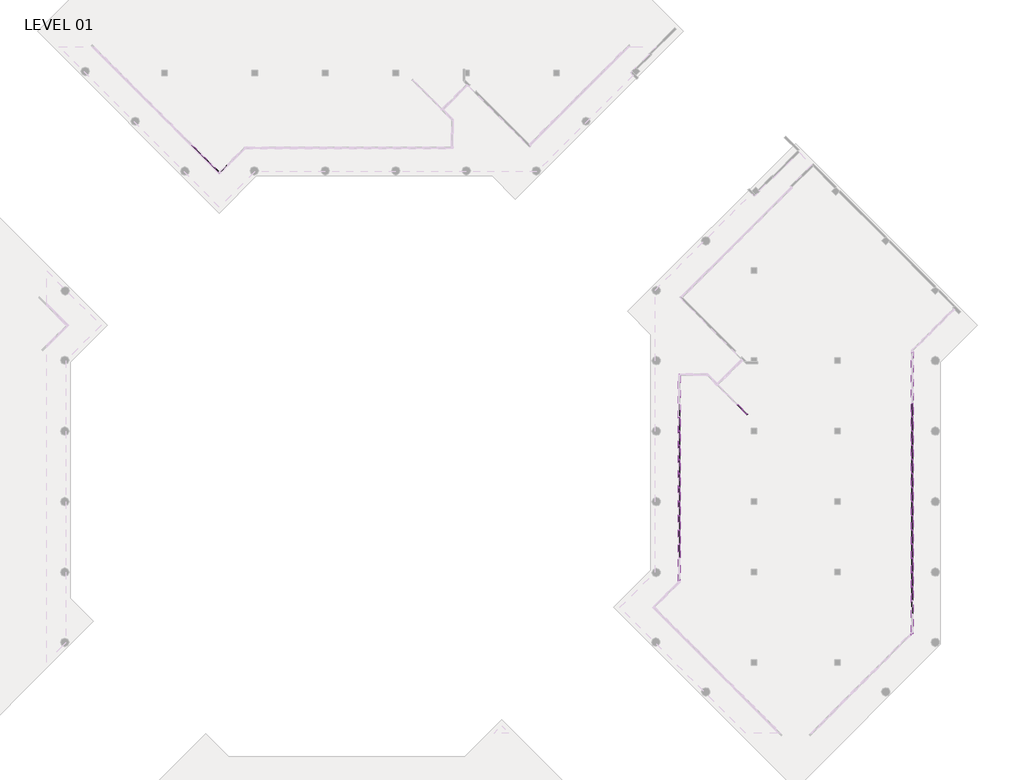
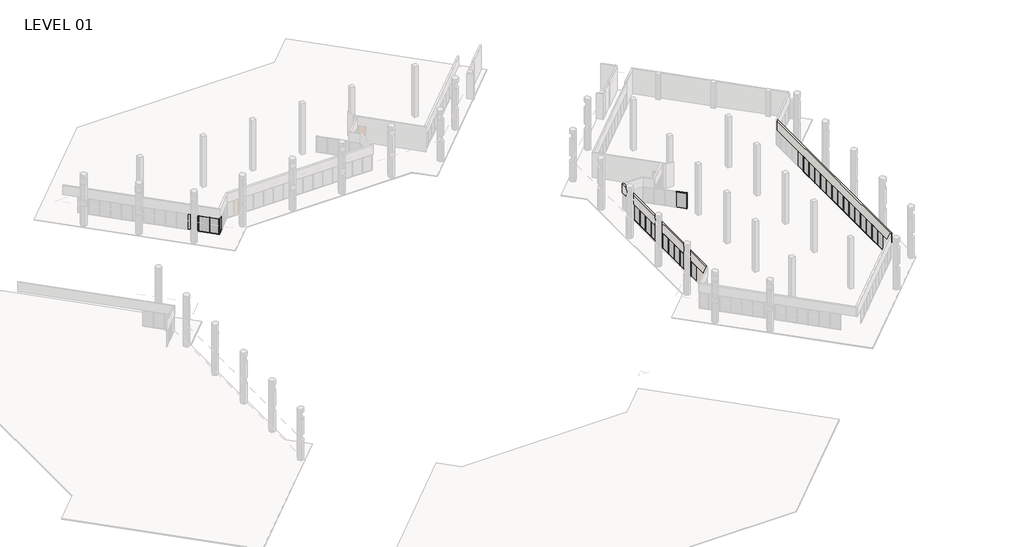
# One storey, part 10 of 24: 84 members, 31 plates, 2 walls.
"""IFC4 building model written with IfcOpenShell, lengths in millimetres."""

import ifcopenshell
import ifcopenshell.guid

model = None  # the IFC model being written
_history = None  # IfcOwnerHistory: only IFC2X3 demands one
_inside = {}  # id of a spatial element -> (the spatial element, [elements in it])
_under = {}  # id of a project, library or spatial element -> (it, [spatial elements below it])
_declared = {}  # id of a project -> (the project, [libraries it declares])
_typed = {}  # id of a type object -> (the type object, [elements of that type])
_made_of = {}  # id of a material, layer set ... -> (it, [elements and type objects made of it])


def new_model(schema):
    """Start an empty IFC model of exactly this schema.

    Asked for "IFC4X3", IfcOpenShell would pick the latest addendum, in which some entities
    have other attributes; the version numbers below select the first issue.
    IFC2X3 requires an IfcOwnerHistory on every rooted entity: one is made here for all.
    """
    global model, _history
    if schema == "IFC4X3":
        model = ifcopenshell.file(schema_version=(4, 3, 0, 0))
    else:
        model = ifcopenshell.file(schema=schema)
    _inside.clear()
    _under.clear()
    _declared.clear()
    _typed.clear()
    _made_of.clear()
    _history = None
    if model.schema == "IFC2X3":
        org = make("IfcOrganization", Name="unknown")
        user = make(
            "IfcPersonAndOrganization",
            ThePerson=make("IfcPerson", FamilyName="unknown"),
            TheOrganization=org,
        )
        app = make(
            "IfcApplication",
            ApplicationDeveloper=org,
            Version="unknown",
            ApplicationFullName="unknown",
            ApplicationIdentifier="unknown",
        )
        _history = make(
            "IfcOwnerHistory",
            OwningUser=user,
            OwningApplication=app,
            ChangeAction="ADDED",
            CreationDate=0,
        )
    return model


def make(cls, **values):
    """One entity of the class cls with the attributes given. An attribute that is None is left unset."""
    return model.create_entity(
        cls, **{name: value for name, value in values.items() if value is not None}
    )


def rooted(cls, **values):
    """An entity with a GlobalId (a new one), such as an element, a storey or a relation."""
    return make(cls, GlobalId=ifcopenshell.guid.new(), OwnerHistory=_history, **values)


def si_unit(unit_type, name, prefix=None):
    """IfcSIUnit, for example si_unit("LENGTHUNIT", "METRE", prefix="MILLI")."""
    return make("IfcSIUnit", UnitType=unit_type, Prefix=prefix, Name=name)


def assignment(units):
    """IfcUnitAssignment: the units of a project."""
    return None if units is None else make("IfcUnitAssignment", Units=units)


def point(xyz):
    """IfcCartesianPoint."""
    return None if xyz is None else make("IfcCartesianPoint", Coordinates=xyz)


def direction(xyz):
    """IfcDirection."""
    return None if xyz is None else make("IfcDirection", DirectionRatios=xyz)


def frame(location, z_axis=None, x_axis=None):
    """IfcAxis2Placement3D, a coordinate frame: its origin and axes. An axis left out is left unset."""
    return make(
        "IfcAxis2Placement3D",
        Location=point(location),
        Axis=direction(z_axis),
        RefDirection=direction(x_axis),
    )


def origin():
    """The frame at (0, 0, 0) with its axes left unset."""
    return frame((0.0, 0.0, 0.0))


def origin_with_axes():
    """The frame at (0, 0, 0) with the z axis (0, 0, 1) and the x axis (1, 0, 0) written out."""
    return frame((0.0, 0.0, 0.0), z_axis=(0.0, 0.0, 1.0), x_axis=(1.0, 0.0, 0.0))


def place(relative_to, where):
    """IfcLocalPlacement: puts the frame where relative to a parent placement (None: the world)."""
    return make(
        "IfcLocalPlacement", PlacementRelTo=relative_to, RelativePlacement=where
    )


def context(
    kind, dimensions, precision=None, world=None, true_north=None, identifier=None
):
    """IfcGeometricRepresentationContext, for example the 3D "Model" context."""
    return make(
        "IfcGeometricRepresentationContext",
        ContextIdentifier=identifier,
        ContextType=kind,
        CoordinateSpaceDimension=dimensions,
        Precision=precision,
        WorldCoordinateSystem=world,
        TrueNorth=true_north,
    )


def project(units=None, contexts=None):
    """IfcProject with its units and contexts."""
    return rooted(
        "IfcProject",
        Name="project",
        RepresentationContexts=contexts,
        UnitsInContext=assignment(units),
    )


def spatial(cls, under=None, at=None, **own):
    """A site, building, storey or space (cls), placed at a placement, below another one or the project."""
    s = rooted(cls, ObjectPlacement=at, **own)
    if under is not None:
        _under.setdefault(under.id(), (under, []))[1].append(s)
    return s


def polyline(points):
    """IfcPolyline through the points."""
    return make("IfcPolyline", Points=[point(p) for p in points])


def outline(outer, holes=None, kind="AREA"):
    """IfcArbitraryClosedProfileDef: a profile drawn as a closed curve; with holes, ...WithVoids."""
    if holes is None:
        return make("IfcArbitraryClosedProfileDef", ProfileType=kind, OuterCurve=outer)
    return make(
        "IfcArbitraryProfileDefWithVoids",
        ProfileType=kind,
        OuterCurve=outer,
        InnerCurves=holes,
    )


def extrude(swept, where, along, depth):
    """IfcExtrudedAreaSolid: the profile swept, set in the frame where, extruded along a direction by depth."""
    return make(
        "IfcExtrudedAreaSolid",
        SweptArea=swept,
        Position=where,
        ExtrudedDirection=direction(along),
        Depth=depth,
    )


def faces_of(points, faces, orient=None, outer=None):
    """IfcFace entities. A face is a list of loops; a loop is a list of indices into points, from 0.

    orient and outer hold one flag for each loop. By default every Orientation is true, the
    first loop of a face is its IfcFaceOuterBound and the others are IfcFaceBound.
    """
    made = []
    for i, loops in enumerate(faces):
        bounds = []
        for j, loop in enumerate(loops):
            is_outer = j == 0 if outer is None else outer[i][j]
            bounds.append(
                make(
                    "IfcFaceOuterBound" if is_outer else "IfcFaceBound",
                    Bound=make("IfcPolyLoop", Polygon=[points[k] for k in loop]),
                    Orientation=True if orient is None else orient[i][j],
                )
            )
        made.append(make("IfcFace", Bounds=bounds))
    return made


def faceted_brep(points, faces, orient=None, outer=None, voids=None):
    """IfcFacetedBrep: a solid bounded by flat faces; with voids (closed shells), ...WithVoids."""
    shared = [point(p) for p in points]
    hull = make("IfcClosedShell", CfsFaces=faces_of(shared, faces, orient, outer))
    if voids is None:
        return make("IfcFacetedBrep", Outer=hull)
    return make(
        "IfcFacetedBrepWithVoids",
        Outer=hull,
        Voids=[
            make(cls, CfsFaces=faces_of(shared, fs, o, b)) for cls, fs, o, b in voids
        ],
    )


def shape(context_of_items, identifier, shape_type, items):
    """IfcShapeRepresentation: the items that make up one representation, for example the "Body"."""
    return make(
        "IfcShapeRepresentation",
        ContextOfItems=context_of_items,
        RepresentationIdentifier=identifier,
        RepresentationType=shape_type,
        Items=items,
    )


def source(mapping_origin, context_of_items, identifier, shape_type, items):
    """IfcRepresentationMap: a shape defined once, which mapped items show again and again."""
    return make(
        "IfcRepresentationMap",
        MappingOrigin=mapping_origin,
        MappedRepresentation=shape(context_of_items, identifier, shape_type, items),
    )


def transform(
    local_origin,
    x_axis=None,
    y_axis=None,
    z_axis=None,
    scale=None,
    scale2=None,
    scale3=None,
    uniform=True,
):
    """IfcCartesianTransformationOperator3D, or its non-uniform kind. x_axis, y_axis, z_axis: its Axis1, 2, 3."""
    if uniform:
        return make(
            "IfcCartesianTransformationOperator3D",
            Axis1=direction(x_axis),
            Axis2=direction(y_axis),
            LocalOrigin=point(local_origin),
            Scale=scale,
            Axis3=direction(z_axis),
        )
    return make(
        "IfcCartesianTransformationOperator3DnonUniform",
        Axis1=direction(x_axis),
        Axis2=direction(y_axis),
        LocalOrigin=point(local_origin),
        Scale=scale,
        Axis3=direction(z_axis),
        Scale2=scale2,
        Scale3=scale3,
    )


def mapped(mapping_source, mapping_target):
    """IfcMappedItem: shows the shape of a source again, moved by a transform."""
    return make(
        "IfcMappedItem", MappingSource=mapping_source, MappingTarget=mapping_target
    )


def made_of(thing, what):
    """Note that an element or type object is made of a material, layer set ...; save() writes the relation."""
    if what is not None:
        _made_of.setdefault(what.id(), (what, []))[1].append(thing)
    return thing


def element(
    cls,
    number,
    at=None,
    inside=None,
    cuts=None,
    type_object=None,
    material=None,
    context=None,
    identifier="Body",
    shape_type=None,
    held_by="IfcProductDefinitionShape",
    body=None,
    shapes=None,
    **own,
):
    """One element of the class cls, such as IfcWall. Its Tag is "e" and its number.

    at: its placement. inside: the storey or other place that contains it. cuts: it is an
    opening in that element (IfcRelVoidsElement). A single representation is given by context,
    identifier, shape_type and body (its items); several are given by shapes. held_by: the class
    of the entity that holds the representations. save() writes the other relations.
    """
    e = rooted(cls, Tag="e%d" % number, ObjectPlacement=at, **own)
    if body is not None:
        shapes = [shape(context, identifier, shape_type, body)]
    if shapes is not None:
        e.Representation = make(held_by, Representations=shapes)
    if inside is not None:
        _inside.setdefault(inside.id(), (inside, []))[1].append(e)
    if cuts is not None:
        rooted(
            "IfcRelVoidsElement", RelatingBuildingElement=cuts, RelatedOpeningElement=e
        )
    if type_object is not None:
        _typed.setdefault(type_object.id(), (type_object, []))[1].append(e)
    return made_of(e, material)


def aggregate(whole, parts):
    """IfcRelAggregates: a whole, such as a stair, and the parts it consists of."""
    return rooted("IfcRelAggregates", RelatingObject=whole, RelatedObjects=parts)


def save(model, path):
    """Write the relations noted so far, then the file.

    IfcRelAggregates (storeys below a building ...), IfcRelContainedInSpatialStructure (elements
    in a storey), IfcRelDefinesByType, IfcRelAssociatesMaterial and IfcRelDeclares: one each for
    every whole, place, type object, material and project.
    """
    for whole, parts in _under.values():
        aggregate(whole, parts)
    for where, things in _inside.values():
        rooted(
            "IfcRelContainedInSpatialStructure",
            RelatedElements=things,
            RelatingStructure=where,
        )
    for kind, things in _typed.values():
        rooted("IfcRelDefinesByType", RelatedObjects=things, RelatingType=kind)
    for what, things in _made_of.values():
        rooted("IfcRelAssociatesMaterial", RelatedObjects=things, RelatingMaterial=what)
    for by, libraries in _declared.values():
        rooted("IfcRelDeclares", RelatingContext=by, RelatedDefinitions=libraries)
    model.write(path)


def member_5247f267(model_context):
    return source(origin(), model_context, "Body", "SweptSolid", [
        extrude(outline(polyline([(0.0, 57.15), (0.0, -57.15), (-50.8, -57.15), (-50.8, 57.15), (0.0, 57.15)])), frame((0.0, 0.0, -1473.2), z_axis=(0.0, 0.0, 1.0), x_axis=(1.0, 0.0, 0.0)), (0.0, 0.0, 1.0), 1473.2),
    ])


def member_1b18ecbc(model_context):
    return source(origin(), model_context, "Body", "SweptSolid", [
        extrude(outline(polyline([(0.0, 57.15), (0.0, -57.15), (-50.8, -57.15), (-50.8, 57.15), (0.0, 57.15)])), frame((0.0, 0.0, -1197.1536726), z_axis=(0.0, 0.0, 1.0), x_axis=(1.0, 0.0, 0.0)), (0.0, 0.0, 1.0), 1197.1536726),
    ])


def member_e44af9ab(model_context):
    return source(origin(), model_context, "Body", "SweptSolid", [
        extrude(outline(polyline([(25.4, 57.15), (25.4, -57.15), (-25.4, -57.15), (-25.4, 57.15), (25.4, 57.15)])), frame((0.0, 0.0, -2590.8), z_axis=(0.0, 0.0, 1.0), x_axis=(1.0, 0.0, 0.0)), (0.0, 0.0, 1.0), 2590.8),
    ])


def member_800970d4(model_context):
    return source(origin(), model_context, "Body", "SweptSolid", [
        extrude(outline(polyline([(0.0, 57.15), (0.0, -57.15), (-50.8, -57.15), (-50.8, 57.15), (0.0, 57.15)])), frame((0.0, 0.0, -2590.8), z_axis=(0.0, 0.0, 1.0), x_axis=(1.0, 0.0, 0.0)), (0.0, 0.0, 1.0), 2590.8),
    ])


def member_cca1f9e6(model_context):
    return source(origin(), model_context, "Body", "SweptSolid", [
        extrude(outline(polyline([(0.0, 57.15), (0.0, -57.15), (-50.8, -57.15), (-50.8, 57.15), (0.0, 57.15)])), frame((0.0, 0.0, -1447.8), z_axis=(0.0, 0.0, 1.0), x_axis=(1.0, 0.0, 0.0)), (0.0, 0.0, 1.0), 1447.8),
    ])


def plate_67294edd(model_context):
    return source(origin(), model_context, "Body", "SweptSolid", [
        extrude(outline(polyline([(736.6, -3.175), (-736.6, -3.175), (-736.6, 3.175), (736.6, 3.175), (736.6, -3.175)])), origin_with_axes(), (0.0, 0.0, 1.0), 2489.2),
    ])


def plate_474de82a(model_context):
    return source(origin(), model_context, "Body", "SweptSolid", [
        extrude(outline(polyline([(598.5768363, -3.175), (-598.5768363, -3.175), (-598.5768363, 3.175), (598.5768363, 3.175), (598.5768363, -3.175)])), origin_with_axes(), (0.0, 0.0, 1.0), 2489.2),
    ])


def plate_e0bd23ee(model_context):
    return source(origin(), model_context, "Body", "SweptSolid", [
        extrude(outline(polyline([(598.574085, -3.175), (-598.574085, -3.175), (-598.574085, 3.175), (598.574085, 3.175), (598.574085, -3.175)])), origin_with_axes(), (0.0, 0.0, 1.0), 2489.2),
    ])


def plate_5a14c350(model_context):
    return source(origin(), model_context, "Body", "SweptSolid", [
        extrude(outline(polyline([(723.9, -3.175), (-723.9, -3.175), (-723.9, 3.175), (723.9, 3.175), (723.9, -3.175)])), origin_with_axes(), (0.0, 0.0, 1.0), 2489.2),
    ])


model = new_model("IFC4")

# Units and contexts
model_context = context("Model", 3, world=origin())
ifc_project = project(units=[si_unit("LENGTHUNIT", "METRE", prefix="MILLI")], contexts=[model_context])

# Site, building, storey
site = spatial("IfcSite", under=ifc_project)
building = spatial("IfcBuilding", under=site)
storey = spatial("IfcBuildingStorey", under=building, Name="LEVEL 01", Elevation=0.0)

# Members
placement = place(None, origin())
member_shape = member_5247f267(model_context)
element("IfcMember", 1, ObjectType="Rectangular Mullion : 2\" x 4.5\" rectangular", at=placement, inside=storey, context=model_context, shape_type="MappedRepresentation", body=[
    mapped(member_shape, transform((12625.8827609, 91169.8640414, 0.0), x_axis=(0.0, 0.0, -1.0), y_axis=(-0.7071067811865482, -0.7071067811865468, 0.0), z_axis=(-0.7071067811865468, 0.7071067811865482, 0.0))),
])
element("IfcMember", 2, ObjectType="Rectangular Mullion : 2\" x 4.5\" rectangular", at=placement, inside=storey, context=model_context, shape_type="MappedRepresentation", body=[
    mapped(member_shape, transform((12589.9617365, 91205.7850659, 2590.8), x_axis=(0.0, 0.0, 1.0), y_axis=(-0.7071067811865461, -0.707106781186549, 0.0), z_axis=(0.707106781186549, -0.7071067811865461, 0.0))),
])
element("IfcMember", 3, ObjectType="Rectangular Mullion : 2\" x 4.5\" rectangular", at=placement, inside=storey, context=model_context, shape_type="MappedRepresentation", body=[
    mapped(member_shape, transform((13667.592471, 90128.1543313, 2590.8), x_axis=(0.0, 0.0, 1.0), y_axis=(-0.7071067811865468, -0.7071067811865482, 0.0), z_axis=(0.7071067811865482, -0.7071067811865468, 0.0))),
])
member_2_shape = member_1b18ecbc(model_context)
element("IfcMember", 4, ObjectType="Rectangular Mullion : 2\" x 4.5\" rectangular", at=placement, inside=storey, context=model_context, shape_type="MappedRepresentation", body=[
    mapped(member_2_shape, transform((14550.0289755, 89245.7178268, 2590.8), x_axis=(0.0, 0.0, 1.0), y_axis=(-0.7071067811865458, -0.7071067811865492, 0.0), z_axis=(0.7071067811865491, -0.7071067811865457, 0.0))),
])
element("IfcMember", 5, ObjectType="Rectangular Mullion : 2\" x 4.5\" rectangular", at=placement, inside=storey, context=model_context, shape_type="MappedRepresentation", body=[
    mapped(member_2_shape, transform((14621.8710245, 89245.7178268, 0.0), x_axis=(0.0, 0.0, -1.0), y_axis=(0.7071067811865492, -0.7071067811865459, 0.0), z_axis=(-0.7071067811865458, -0.7071067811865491, 0.0))),
])
element("IfcMember", 6, ObjectType="Rectangular Mullion : 2\" x 4.5\" rectangular", at=placement, inside=storey, context=model_context, shape_type="MappedRepresentation", body=[
    mapped(member_2_shape, transform((13703.5134955, 90092.2333069, 0.0), x_axis=(0.0, 0.0, -1.0), y_axis=(-0.707106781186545, -0.7071067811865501, 0.0), z_axis=(-0.7071067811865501, 0.707106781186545, 0.0))),
])
member_3_shape = member_e44af9ab(model_context)
element("IfcMember", 7, ObjectType="Rectangular Mullion : 2\" x 4.5\" rectangular", at=placement, inside=storey, context=model_context, shape_type="MappedRepresentation", body=[
    mapped(member_3_shape, transform((12607.9222487, 91187.8245536, 0.0), x_axis=(0.7071067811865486, -0.7071067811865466, 0.0), y_axis=(-0.7071067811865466, -0.7071067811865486, 0.0), z_axis=(0.0, 0.0, -1.0))),
])
element("IfcMember", 8, ObjectType="Rectangular Mullion : 2\" x 4.5\" rectangular", at=placement, inside=storey, context=model_context, shape_type="MappedRepresentation", body=[
    mapped(member_3_shape, transform((13685.5529832, 90110.1938191, 0.0), x_axis=(0.7071067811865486, -0.7071067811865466, 0.0), y_axis=(-0.7071067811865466, -0.7071067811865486, 0.0), z_axis=(0.0, 0.0, -1.0))),
])
member_4_shape = member_800970d4(model_context)
element("IfcMember", 9, ObjectType="Rectangular Mullion : 2\" x 4.5\" rectangular", at=placement, inside=storey, context=model_context, shape_type="MappedRepresentation", body=[
    mapped(member_4_shape, transform((14585.95, 89209.7968023, 0.0), x_axis=(0.7071067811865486, -0.7071067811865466, 0.0), y_axis=(-0.7071067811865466, -0.7071067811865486, 0.0), z_axis=(0.0, 0.0, -1.0))),
])
element("IfcMember", 10, ObjectType="Rectangular Mullion : 2\" x 4.5\" rectangular", at=placement, inside=storey, context=model_context, shape_type="MappedRepresentation", body=[
    mapped(member_4_shape, transform((14585.95, 89209.7968023, 2590.8), x_axis=(-0.7071067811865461, -0.7071067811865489, 0.0), y_axis=(0.7071067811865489, -0.7071067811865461, 0.0), z_axis=(0.0, 0.0, 1.0))),
])
element("IfcMember", 11, ObjectType="Rectangular Mullion : 2\" x 4.5\" rectangular", at=placement, inside=storey, context=model_context, shape_type="MappedRepresentation", body=[
    mapped(member_shape, transform((89445.0847164, 62877.3675885, 2590.8), x_axis=(0.0, 0.0, 1.0), y_axis=(-1.0, 0.0, 0.0), z_axis=(0.0, -1.0, 0.0))),
])
element("IfcMember", 12, ObjectType="Rectangular Mullion : 2\" x 4.5\" rectangular", at=placement, inside=storey, context=model_context, shape_type="MappedRepresentation", body=[
    mapped(member_shape, transform((89445.0847164, 61353.3675885, 2590.8), x_axis=(0.0, 0.0, 1.0), y_axis=(-1.0, 0.0, 0.0), z_axis=(0.0, -1.0, 0.0))),
])
element("IfcMember", 13, ObjectType="Rectangular Mullion : 2\" x 4.5\" rectangular", at=placement, inside=storey, context=model_context, shape_type="MappedRepresentation", body=[
    mapped(member_shape, transform((89445.0847164, 56781.3675885, 2590.8), x_axis=(0.0, 0.0, 1.0), y_axis=(-1.0, 0.0, 0.0), z_axis=(0.0, -1.0, 0.0))),
])
element("IfcMember", 14, ObjectType="Rectangular Mullion : 2\" x 4.5\" rectangular", at=placement, inside=storey, context=model_context, shape_type="MappedRepresentation", body=[
    mapped(member_shape, transform((89445.0847164, 55257.3675885, 2590.8), x_axis=(0.0, 0.0, 1.0), y_axis=(-1.0, 0.0, 0.0), z_axis=(0.0, -1.0, 0.0))),
])
element("IfcMember", 15, ObjectType="Rectangular Mullion : 2\" x 4.5\" rectangular", at=placement, inside=storey, context=model_context, shape_type="MappedRepresentation", body=[
    mapped(member_shape, transform((89445.0847164, 52209.3675885, 2590.8), x_axis=(0.0, 0.0, 1.0), y_axis=(-1.0, 0.0, 0.0), z_axis=(0.0, -1.0, 0.0))),
])
element("IfcMember", 16, ObjectType="Rectangular Mullion : 2\" x 4.5\" rectangular", at=placement, inside=storey, context=model_context, shape_type="MappedRepresentation", body=[
    mapped(member_shape, transform((89445.0847164, 49161.3675885, 2590.8), x_axis=(0.0, 0.0, 1.0), y_axis=(-1.0, 0.0, 0.0), z_axis=(0.0, -1.0, 0.0))),
])
element("IfcMember", 17, ObjectType="Rectangular Mullion : 2\" x 4.5\" rectangular", at=placement, inside=storey, context=model_context, shape_type="MappedRepresentation", body=[
    mapped(member_shape, transform((89445.0847164, 46113.3675885, 2590.8), x_axis=(0.0, 0.0, 1.0), y_axis=(-1.0, 0.0, 0.0), z_axis=(0.0, -1.0, 0.0))),
])
element("IfcMember", 18, ObjectType="Rectangular Mullion : 2\" x 4.5\" rectangular", at=placement, inside=storey, context=model_context, shape_type="MappedRepresentation", body=[
    mapped(member_shape, transform((89445.0847164, 59829.3675885, 2590.8), x_axis=(0.0, 0.0, 1.0), y_axis=(-1.0, 0.0, 0.0), z_axis=(0.0, -1.0, 0.0))),
])
element("IfcMember", 19, ObjectType="Rectangular Mullion : 2\" x 4.5\" rectangular", at=placement, inside=storey, context=model_context, shape_type="MappedRepresentation", body=[
    mapped(member_shape, transform((89445.0847164, 58305.3675885, 2590.8), x_axis=(0.0, 0.0, 1.0), y_axis=(-1.0, 0.0, 0.0), z_axis=(0.0, -1.0, 0.0))),
])
element("IfcMember", 20, ObjectType="Rectangular Mullion : 2\" x 4.5\" rectangular", at=placement, inside=storey, context=model_context, shape_type="MappedRepresentation", body=[
    mapped(member_shape, transform((89445.0847164, 53733.3675885, 2590.8), x_axis=(0.0, 0.0, 1.0), y_axis=(-1.0, 0.0, 0.0), z_axis=(0.0, -1.0, 0.0))),
])
element("IfcMember", 21, ObjectType="Rectangular Mullion : 2\" x 4.5\" rectangular", at=placement, inside=storey, context=model_context, shape_type="MappedRepresentation", body=[
    mapped(member_shape, transform((89445.0847164, 50685.3675885, 2590.8), x_axis=(0.0, 0.0, 1.0), y_axis=(-1.0, 0.0, 0.0), z_axis=(0.0, -1.0, 0.0))),
])
element("IfcMember", 22, ObjectType="Rectangular Mullion : 2\" x 4.5\" rectangular", at=placement, inside=storey, context=model_context, shape_type="MappedRepresentation", body=[
    mapped(member_shape, transform((89445.0847164, 47637.3675885, 2590.8), x_axis=(0.0, 0.0, 1.0), y_axis=(-1.0, 0.0, 0.0), z_axis=(0.0, -1.0, 0.0))),
])
element("IfcMember", 23, ObjectType="Rectangular Mullion : 2\" x 4.5\" rectangular", at=placement, inside=storey, context=model_context, shape_type="MappedRepresentation", body=[
    mapped(member_shape, transform((89445.0847164, 44589.3675885, 2590.8), x_axis=(0.0, 0.0, 1.0), y_axis=(-1.0, 0.0, 0.0), z_axis=(0.0, -1.0, 0.0))),
])
element("IfcMember", 24, ObjectType="Rectangular Mullion : 2\" x 4.5\" rectangular", at=placement, inside=storey, context=model_context, shape_type="MappedRepresentation", body=[
    mapped(member_shape, transform((89445.0847164, 43065.3675885, 2590.8), x_axis=(0.0, 0.0, 1.0), y_axis=(-1.0, 0.0, 0.0), z_axis=(0.0, -1.0, 0.0))),
])
element("IfcMember", 25, ObjectType="Rectangular Mullion : 2\" x 4.5\" rectangular", at=placement, inside=storey, context=model_context, shape_type="MappedRepresentation", body=[
    mapped(member_shape, transform((64254.6347164, 50634.5675885, 2590.8), x_axis=(0.0, 0.0, 1.0), y_axis=(1.0, 0.0, 0.0), z_axis=(0.0, 1.0, 0.0))),
])
element("IfcMember", 26, ObjectType="Rectangular Mullion : 2\" x 4.5\" rectangular", at=placement, inside=storey, context=model_context, shape_type="MappedRepresentation", body=[
    mapped(member_shape, transform((64254.6347164, 53682.5675885, 2590.8), x_axis=(0.0, 0.0, 1.0), y_axis=(1.0, 0.0, 0.0), z_axis=(0.0, 1.0, 0.0))),
])
element("IfcMember", 27, ObjectType="Rectangular Mullion : 2\" x 4.5\" rectangular", at=placement, inside=storey, context=model_context, shape_type="MappedRepresentation", body=[
    mapped(member_shape, transform((64254.6347164, 55206.5675885, 2590.8), x_axis=(0.0, 0.0, 1.0), y_axis=(1.0, 0.0, 0.0), z_axis=(0.0, 1.0, 0.0))),
])
element("IfcMember", 28, ObjectType="Rectangular Mullion : 2\" x 4.5\" rectangular", at=placement, inside=storey, context=model_context, shape_type="MappedRepresentation", body=[
    mapped(member_shape, transform((64254.6347164, 58254.5675885, 2590.8), x_axis=(0.0, 0.0, 1.0), y_axis=(1.0, 0.0, 0.0), z_axis=(0.0, 1.0, 0.0))),
])
element("IfcMember", 29, ObjectType="Rectangular Mullion : 2\" x 4.5\" rectangular", at=placement, inside=storey, context=model_context, shape_type="MappedRepresentation", body=[
    mapped(member_shape, transform((64254.6347164, 61302.5675885, 2590.8), x_axis=(0.0, 0.0, 1.0), y_axis=(1.0, 0.0, 0.0), z_axis=(0.0, 1.0, 0.0))),
])
element("IfcMember", 30, ObjectType="Rectangular Mullion : 2\" x 4.5\" rectangular", at=placement, inside=storey, context=model_context, shape_type="MappedRepresentation", body=[
    mapped(member_shape, transform((64254.6347164, 62826.5675885, 2590.8), x_axis=(0.0, 0.0, 1.0), y_axis=(1.0, 0.0, 0.0), z_axis=(0.0, 1.0, 0.0))),
])
element("IfcMember", 31, ObjectType="Rectangular Mullion : 2\" x 4.5\" rectangular", at=placement, inside=storey, context=model_context, shape_type="MappedRepresentation", body=[
    mapped(member_shape, transform((64254.6347164, 52158.5675885, 2590.8), x_axis=(0.0, 0.0, 1.0), y_axis=(1.0, 0.0, 0.0), z_axis=(0.0, 1.0, 0.0))),
])
element("IfcMember", 32, ObjectType="Rectangular Mullion : 2\" x 4.5\" rectangular", at=placement, inside=storey, context=model_context, shape_type="MappedRepresentation", body=[
    mapped(member_shape, transform((64254.6347164, 49110.5675885, 2590.8), x_axis=(0.0, 0.0, 1.0), y_axis=(1.0, 0.0, 0.0), z_axis=(0.0, 1.0, 0.0))),
])
element("IfcMember", 33, ObjectType="Rectangular Mullion : 2\" x 4.5\" rectangular", at=placement, inside=storey, context=model_context, shape_type="MappedRepresentation", body=[
    mapped(member_shape, transform((64254.6347164, 59778.5675885, 2590.8), x_axis=(0.0, 0.0, 1.0), y_axis=(1.0, 0.0, 0.0), z_axis=(0.0, 1.0, 0.0))),
])
element("IfcMember", 34, ObjectType="Rectangular Mullion : 2\" x 4.5\" rectangular", at=placement, inside=storey, context=model_context, shape_type="MappedRepresentation", body=[
    mapped(member_shape, transform((64254.6347164, 56730.5675885, 2590.8), x_axis=(0.0, 0.0, 1.0), y_axis=(1.0, 0.0, 0.0), z_axis=(0.0, 1.0, 0.0))),
])
element("IfcMember", 35, ObjectType="Rectangular Mullion : 2\" x 4.5\" rectangular", at=placement, inside=storey, context=model_context, shape_type="MappedRepresentation", body=[
    mapped(member_shape, transform((89445.0847164, 62826.5675885, 0.0), x_axis=(0.0, 0.0, -1.0), y_axis=(-1.0, 0.0, 0.0), z_axis=(0.0, 1.0, 0.0))),
])
element("IfcMember", 36, ObjectType="Rectangular Mullion : 2\" x 4.5\" rectangular", at=placement, inside=storey, context=model_context, shape_type="MappedRepresentation", body=[
    mapped(member_shape, transform((89445.0847164, 61302.5675885, 0.0), x_axis=(0.0, 0.0, -1.0), y_axis=(-1.0, 0.0, 0.0), z_axis=(0.0, 1.0, 0.0))),
])
element("IfcMember", 37, ObjectType="Rectangular Mullion : 2\" x 4.5\" rectangular", at=placement, inside=storey, context=model_context, shape_type="MappedRepresentation", body=[
    mapped(member_shape, transform((89445.0847164, 56730.5675885, 0.0), x_axis=(0.0, 0.0, -1.0), y_axis=(-1.0, 0.0, 0.0), z_axis=(0.0, 1.0, 0.0))),
])
element("IfcMember", 38, ObjectType="Rectangular Mullion : 2\" x 4.5\" rectangular", at=placement, inside=storey, context=model_context, shape_type="MappedRepresentation", body=[
    mapped(member_shape, transform((89445.0847164, 55206.5675885, 0.0), x_axis=(0.0, 0.0, -1.0), y_axis=(-1.0, 0.0, 0.0), z_axis=(0.0, 1.0, 0.0))),
])
element("IfcMember", 39, ObjectType="Rectangular Mullion : 2\" x 4.5\" rectangular", at=placement, inside=storey, context=model_context, shape_type="MappedRepresentation", body=[
    mapped(member_shape, transform((89445.0847164, 52158.5675885, 0.0), x_axis=(0.0, 0.0, -1.0), y_axis=(-1.0, 0.0, 0.0), z_axis=(0.0, 1.0, 0.0))),
])
element("IfcMember", 40, ObjectType="Rectangular Mullion : 2\" x 4.5\" rectangular", at=placement, inside=storey, context=model_context, shape_type="MappedRepresentation", body=[
    mapped(member_shape, transform((89445.0847164, 49110.5675885, 0.0), x_axis=(0.0, 0.0, -1.0), y_axis=(-1.0, 0.0, 0.0), z_axis=(0.0, 1.0, 0.0))),
])
element("IfcMember", 41, ObjectType="Rectangular Mullion : 2\" x 4.5\" rectangular", at=placement, inside=storey, context=model_context, shape_type="MappedRepresentation", body=[
    mapped(member_shape, transform((89445.0847164, 46062.5675885, 0.0), x_axis=(0.0, 0.0, -1.0), y_axis=(-1.0, 0.0, 0.0), z_axis=(0.0, 1.0, 0.0))),
])
element("IfcMember", 42, ObjectType="Rectangular Mullion : 2\" x 4.5\" rectangular", at=placement, inside=storey, context=model_context, shape_type="MappedRepresentation", body=[
    mapped(member_shape, transform((89445.0847164, 59778.5675885, 0.0), x_axis=(0.0, 0.0, -1.0), y_axis=(-1.0, 0.0, 0.0), z_axis=(0.0, 1.0, 0.0))),
])
element("IfcMember", 43, ObjectType="Rectangular Mullion : 2\" x 4.5\" rectangular", at=placement, inside=storey, context=model_context, shape_type="MappedRepresentation", body=[
    mapped(member_shape, transform((89445.0847164, 58254.5675885, 0.0), x_axis=(0.0, 0.0, -1.0), y_axis=(-1.0, 0.0, 0.0), z_axis=(0.0, 1.0, 0.0))),
])
element("IfcMember", 44, ObjectType="Rectangular Mullion : 2\" x 4.5\" rectangular", at=placement, inside=storey, context=model_context, shape_type="MappedRepresentation", body=[
    mapped(member_shape, transform((89445.0847164, 53682.5675885, 0.0), x_axis=(0.0, 0.0, -1.0), y_axis=(-1.0, 0.0, 0.0), z_axis=(0.0, 1.0, 0.0))),
])
element("IfcMember", 45, ObjectType="Rectangular Mullion : 2\" x 4.5\" rectangular", at=placement, inside=storey, context=model_context, shape_type="MappedRepresentation", body=[
    mapped(member_shape, transform((89445.0847164, 50634.5675885, 0.0), x_axis=(0.0, 0.0, -1.0), y_axis=(-1.0, 0.0, 0.0), z_axis=(0.0, 1.0, 0.0))),
])
element("IfcMember", 46, ObjectType="Rectangular Mullion : 2\" x 4.5\" rectangular", at=placement, inside=storey, context=model_context, shape_type="MappedRepresentation", body=[
    mapped(member_shape, transform((89445.0847164, 47586.5675885, 0.0), x_axis=(0.0, 0.0, -1.0), y_axis=(-1.0, 0.0, 0.0), z_axis=(0.0, 1.0, 0.0))),
])
element("IfcMember", 47, ObjectType="Rectangular Mullion : 2\" x 4.5\" rectangular", at=placement, inside=storey, context=model_context, shape_type="MappedRepresentation", body=[
    mapped(member_shape, transform((89445.0847164, 44538.5675885, 0.0), x_axis=(0.0, 0.0, -1.0), y_axis=(-1.0, 0.0, 0.0), z_axis=(0.0, 1.0, 0.0))),
])
element("IfcMember", 48, ObjectType="Rectangular Mullion : 2\" x 4.5\" rectangular", at=placement, inside=storey, context=model_context, shape_type="MappedRepresentation", body=[
    mapped(member_shape, transform((89445.0847164, 43014.5675885, 0.0), x_axis=(0.0, 0.0, -1.0), y_axis=(-1.0, 0.0, 0.0), z_axis=(0.0, 1.0, 0.0))),
])
element("IfcMember", 49, ObjectType="Rectangular Mullion : 2\" x 4.5\" rectangular", at=placement, inside=storey, context=model_context, shape_type="MappedRepresentation", body=[
    mapped(member_shape, transform((64254.6347164, 50685.3675885, 0.0), x_axis=(0.0, 0.0, -1.0), y_axis=(1.0, 0.0, 0.0), z_axis=(0.0, -1.0, 0.0))),
])
element("IfcMember", 50, ObjectType="Rectangular Mullion : 2\" x 4.5\" rectangular", at=placement, inside=storey, context=model_context, shape_type="MappedRepresentation", body=[
    mapped(member_shape, transform((64254.6347164, 53733.3675885, 0.0), x_axis=(0.0, 0.0, -1.0), y_axis=(1.0, 0.0, 0.0), z_axis=(0.0, -1.0, 0.0))),
])
element("IfcMember", 51, ObjectType="Rectangular Mullion : 2\" x 4.5\" rectangular", at=placement, inside=storey, context=model_context, shape_type="MappedRepresentation", body=[
    mapped(member_shape, transform((64254.6347164, 55257.3675885, 0.0), x_axis=(0.0, 0.0, -1.0), y_axis=(1.0, 0.0, 0.0), z_axis=(0.0, -1.0, 0.0))),
])
element("IfcMember", 52, ObjectType="Rectangular Mullion : 2\" x 4.5\" rectangular", at=placement, inside=storey, context=model_context, shape_type="MappedRepresentation", body=[
    mapped(member_shape, transform((64254.6347164, 58305.3675885, 0.0), x_axis=(0.0, 0.0, -1.0), y_axis=(1.0, 0.0, 0.0), z_axis=(0.0, -1.0, 0.0))),
])
element("IfcMember", 53, ObjectType="Rectangular Mullion : 2\" x 4.5\" rectangular", at=placement, inside=storey, context=model_context, shape_type="MappedRepresentation", body=[
    mapped(member_shape, transform((64254.6347164, 61353.3675885, 0.0), x_axis=(0.0, 0.0, -1.0), y_axis=(1.0, 0.0, 0.0), z_axis=(0.0, -1.0, 0.0))),
])
element("IfcMember", 54, ObjectType="Rectangular Mullion : 2\" x 4.5\" rectangular", at=placement, inside=storey, context=model_context, shape_type="MappedRepresentation", body=[
    mapped(member_shape, transform((64254.6347164, 62877.3675885, 0.0), x_axis=(0.0, 0.0, -1.0), y_axis=(1.0, 0.0, 0.0), z_axis=(0.0, -1.0, 0.0))),
])
element("IfcMember", 55, ObjectType="Rectangular Mullion : 2\" x 4.5\" rectangular", at=placement, inside=storey, context=model_context, shape_type="MappedRepresentation", body=[
    mapped(member_shape, transform((64254.6347164, 52209.3675885, 0.0), x_axis=(0.0, 0.0, -1.0), y_axis=(1.0, 0.0, 0.0), z_axis=(0.0, -1.0, 0.0))),
])
element("IfcMember", 56, ObjectType="Rectangular Mullion : 2\" x 4.5\" rectangular", at=placement, inside=storey, context=model_context, shape_type="MappedRepresentation", body=[
    mapped(member_shape, transform((64254.6347164, 49161.3675885, 0.0), x_axis=(0.0, 0.0, -1.0), y_axis=(1.0, 0.0, 0.0), z_axis=(0.0, -1.0, 0.0))),
])
element("IfcMember", 57, ObjectType="Rectangular Mullion : 2\" x 4.5\" rectangular", at=placement, inside=storey, context=model_context, shape_type="MappedRepresentation", body=[
    mapped(member_shape, transform((64254.6347164, 59829.3675885, 0.0), x_axis=(0.0, 0.0, -1.0), y_axis=(1.0, 0.0, 0.0), z_axis=(0.0, -1.0, 0.0))),
])
element("IfcMember", 58, ObjectType="Rectangular Mullion : 2\" x 4.5\" rectangular", at=placement, inside=storey, context=model_context, shape_type="MappedRepresentation", body=[
    mapped(member_shape, transform((64254.6347164, 56781.3675885, 0.0), x_axis=(0.0, 0.0, -1.0), y_axis=(1.0, 0.0, 0.0), z_axis=(0.0, -1.0, 0.0))),
])
element("IfcMember", 59, ObjectType="Rectangular Mullion : 2\" x 4.5\" rectangular", at=placement, inside=storey, context=model_context, shape_type="MappedRepresentation", body=[
    mapped(member_3_shape, transform((89445.0847164, 62851.9675885, 0.0), x_axis=(0.0, -1.0, 0.0), y_axis=(-1.0, 0.0, 0.0), z_axis=(0.0, 0.0, -1.0))),
])
element("IfcMember", 60, ObjectType="Rectangular Mullion : 2\" x 4.5\" rectangular", at=placement, inside=storey, context=model_context, shape_type="MappedRepresentation", body=[
    mapped(member_3_shape, transform((89445.0847164, 61327.9675885, 0.0), x_axis=(0.0, -1.0, 0.0), y_axis=(-1.0, 0.0, 0.0), z_axis=(0.0, 0.0, -1.0))),
])
element("IfcMember", 61, ObjectType="Rectangular Mullion : 2\" x 4.5\" rectangular", at=placement, inside=storey, context=model_context, shape_type="MappedRepresentation", body=[
    mapped(member_3_shape, transform((89445.0847164, 56755.9675885, 0.0), x_axis=(0.0, -1.0, 0.0), y_axis=(-1.0, 0.0, 0.0), z_axis=(0.0, 0.0, -1.0))),
])
element("IfcMember", 62, ObjectType="Rectangular Mullion : 2\" x 4.5\" rectangular", at=placement, inside=storey, context=model_context, shape_type="MappedRepresentation", body=[
    mapped(member_3_shape, transform((89445.0847164, 55231.9675885, 0.0), x_axis=(0.0, -1.0, 0.0), y_axis=(-1.0, 0.0, 0.0), z_axis=(0.0, 0.0, -1.0))),
])
element("IfcMember", 63, ObjectType="Rectangular Mullion : 2\" x 4.5\" rectangular", at=placement, inside=storey, context=model_context, shape_type="MappedRepresentation", body=[
    mapped(member_3_shape, transform((89445.0847164, 52183.9675885, 0.0), x_axis=(0.0, -1.0, 0.0), y_axis=(-1.0, 0.0, 0.0), z_axis=(0.0, 0.0, -1.0))),
])
element("IfcMember", 64, ObjectType="Rectangular Mullion : 2\" x 4.5\" rectangular", at=placement, inside=storey, context=model_context, shape_type="MappedRepresentation", body=[
    mapped(member_3_shape, transform((89445.0847164, 49135.9675885, 0.0), x_axis=(0.0, -1.0, 0.0), y_axis=(-1.0, 0.0, 0.0), z_axis=(0.0, 0.0, -1.0))),
])
element("IfcMember", 65, ObjectType="Rectangular Mullion : 2\" x 4.5\" rectangular", at=placement, inside=storey, context=model_context, shape_type="MappedRepresentation", body=[
    mapped(member_3_shape, transform((89445.0847164, 46087.9675885, 0.0), x_axis=(0.0, -1.0, 0.0), y_axis=(-1.0, 0.0, 0.0), z_axis=(0.0, 0.0, -1.0))),
])
element("IfcMember", 66, ObjectType="Rectangular Mullion : 2\" x 4.5\" rectangular", at=placement, inside=storey, context=model_context, shape_type="MappedRepresentation", body=[
    mapped(member_3_shape, transform((89445.0847164, 44563.9675885, 0.0), x_axis=(0.0, -1.0, 0.0), y_axis=(-1.0, 0.0, 0.0), z_axis=(0.0, 0.0, -1.0))),
])
element("IfcMember", 67, ObjectType="Rectangular Mullion : 2\" x 4.5\" rectangular", at=placement, inside=storey, context=model_context, shape_type="MappedRepresentation", body=[
    mapped(member_3_shape, transform((89445.0847164, 59803.9675885, 0.0), x_axis=(0.0, -1.0, 0.0), y_axis=(-1.0, 0.0, 0.0), z_axis=(0.0, 0.0, -1.0))),
])
element("IfcMember", 68, ObjectType="Rectangular Mullion : 2\" x 4.5\" rectangular", at=placement, inside=storey, context=model_context, shape_type="MappedRepresentation", body=[
    mapped(member_3_shape, transform((89445.0847164, 58279.9675885, 0.0), x_axis=(0.0, -1.0, 0.0), y_axis=(-1.0, 0.0, 0.0), z_axis=(0.0, 0.0, -1.0))),
])
element("IfcMember", 69, ObjectType="Rectangular Mullion : 2\" x 4.5\" rectangular", at=placement, inside=storey, context=model_context, shape_type="MappedRepresentation", body=[
    mapped(member_3_shape, transform((89445.0847164, 53707.9675885, 0.0), x_axis=(0.0, -1.0, 0.0), y_axis=(-1.0, 0.0, 0.0), z_axis=(0.0, 0.0, -1.0))),
])
element("IfcMember", 70, ObjectType="Rectangular Mullion : 2\" x 4.5\" rectangular", at=placement, inside=storey, context=model_context, shape_type="MappedRepresentation", body=[
    mapped(member_3_shape, transform((89445.0847164, 50659.9675885, 0.0), x_axis=(0.0, -1.0, 0.0), y_axis=(-1.0, 0.0, 0.0), z_axis=(0.0, 0.0, -1.0))),
])
element("IfcMember", 71, ObjectType="Rectangular Mullion : 2\" x 4.5\" rectangular", at=placement, inside=storey, context=model_context, shape_type="MappedRepresentation", body=[
    mapped(member_3_shape, transform((89445.0847164, 47611.9675885, 0.0), x_axis=(0.0, -1.0, 0.0), y_axis=(-1.0, 0.0, 0.0), z_axis=(0.0, 0.0, -1.0))),
])
element("IfcMember", 72, ObjectType="Rectangular Mullion : 2\" x 4.5\" rectangular", at=placement, inside=storey, context=model_context, shape_type="MappedRepresentation", body=[
    mapped(member_3_shape, transform((89445.0847164, 43039.9675885, 0.0), x_axis=(0.0, -1.0, 0.0), y_axis=(-1.0, 0.0, 0.0), z_axis=(0.0, 0.0, -1.0))),
])
element("IfcMember", 73, ObjectType="Rectangular Mullion : 2\" x 4.5\" rectangular", at=placement, inside=storey, context=model_context, shape_type="MappedRepresentation", body=[
    mapped(member_3_shape, transform((64254.6347164, 50659.9675885, 0.0), x_axis=(0.0, 1.0, 0.0), y_axis=(1.0, 0.0, 0.0), z_axis=(0.0, 0.0, -1.0))),
])
element("IfcMember", 74, ObjectType="Rectangular Mullion : 2\" x 4.5\" rectangular", at=placement, inside=storey, context=model_context, shape_type="MappedRepresentation", body=[
    mapped(member_3_shape, transform((64254.6347164, 53707.9675885, 0.0), x_axis=(0.0, 1.0, 0.0), y_axis=(1.0, 0.0, 0.0), z_axis=(0.0, 0.0, -1.0))),
])
element("IfcMember", 75, ObjectType="Rectangular Mullion : 2\" x 4.5\" rectangular", at=placement, inside=storey, context=model_context, shape_type="MappedRepresentation", body=[
    mapped(member_3_shape, transform((64254.6347164, 55231.9675885, 0.0), x_axis=(0.0, 1.0, 0.0), y_axis=(1.0, 0.0, 0.0), z_axis=(0.0, 0.0, -1.0))),
])
element("IfcMember", 76, ObjectType="Rectangular Mullion : 2\" x 4.5\" rectangular", at=placement, inside=storey, context=model_context, shape_type="MappedRepresentation", body=[
    mapped(member_3_shape, transform((64254.6347164, 58279.9675885, 0.0), x_axis=(0.0, 1.0, 0.0), y_axis=(1.0, 0.0, 0.0), z_axis=(0.0, 0.0, -1.0))),
])
element("IfcMember", 77, ObjectType="Rectangular Mullion : 2\" x 4.5\" rectangular", at=placement, inside=storey, context=model_context, shape_type="MappedRepresentation", body=[
    mapped(member_3_shape, transform((64254.6347164, 61327.9675885, 0.0), x_axis=(0.0, 1.0, 0.0), y_axis=(1.0, 0.0, 0.0), z_axis=(0.0, 0.0, -1.0))),
])
element("IfcMember", 78, ObjectType="Rectangular Mullion : 2\" x 4.5\" rectangular", at=placement, inside=storey, context=model_context, shape_type="MappedRepresentation", body=[
    mapped(member_3_shape, transform((64254.6347164, 62851.9675885, 0.0), x_axis=(0.0, 1.0, 0.0), y_axis=(1.0, 0.0, 0.0), z_axis=(0.0, 0.0, -1.0))),
])
element("IfcMember", 79, ObjectType="Rectangular Mullion : 2\" x 4.5\" rectangular", at=placement, inside=storey, context=model_context, shape_type="MappedRepresentation", body=[
    mapped(member_3_shape, transform((64254.6347164, 52183.9675885, 0.0), x_axis=(0.0, 1.0, 0.0), y_axis=(1.0, 0.0, 0.0), z_axis=(0.0, 0.0, -1.0))),
])
element("IfcMember", 80, ObjectType="Rectangular Mullion : 2\" x 4.5\" rectangular", at=placement, inside=storey, context=model_context, shape_type="MappedRepresentation", body=[
    mapped(member_3_shape, transform((64254.6347164, 49135.9675885, 0.0), x_axis=(0.0, 1.0, 0.0), y_axis=(1.0, 0.0, 0.0), z_axis=(0.0, 0.0, -1.0))),
])
element("IfcMember", 81, ObjectType="Rectangular Mullion : 2\" x 4.5\" rectangular", at=placement, inside=storey, context=model_context, shape_type="MappedRepresentation", body=[
    mapped(member_3_shape, transform((64254.6347164, 59803.9675885, 0.0), x_axis=(0.0, 1.0, 0.0), y_axis=(1.0, 0.0, 0.0), z_axis=(0.0, 0.0, -1.0))),
])
element("IfcMember", 82, ObjectType="Rectangular Mullion : 2\" x 4.5\" rectangular", at=placement, inside=storey, context=model_context, shape_type="MappedRepresentation", body=[
    mapped(member_3_shape, transform((64254.6347164, 56755.9675885, 0.0), x_axis=(0.0, 1.0, 0.0), y_axis=(1.0, 0.0, 0.0), z_axis=(0.0, 0.0, -1.0))),
])
element("IfcMember", 83, ObjectType="Rectangular Mullion : 2\" x 4.5\" rectangular", at=placement, inside=storey, context=model_context, shape_type="MappedRepresentation", body=[
    mapped(member_4_shape, transform((71613.1576545, 63113.4446504, 0.0), x_axis=(0.7071067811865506, -0.7071067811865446, 0.0), y_axis=(-0.7071067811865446, -0.7071067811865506, 0.0), z_axis=(0.0, 0.0, -1.0))),
])
member_5_shape = member_cca1f9e6(model_context)
element("IfcMember", 84, ObjectType="Rectangular Mullion : 2\" x 4.5\" rectangular", at=placement, inside=storey, context=model_context, shape_type="MappedRepresentation", body=[
    mapped(member_5_shape, transform((71577.23663, 63149.3656749, 2590.8), x_axis=(0.0, 0.0, 1.0), y_axis=(-0.7071067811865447, -0.7071067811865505, 0.0), z_axis=(0.7071067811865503, -0.7071067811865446, 0.0))),
])

# Plates
plate_shape = plate_67294edd(model_context)
element("IfcPlate", 85, ObjectType="System Panel : 1/4\" Glass", at=placement, inside=storey, context=model_context, shape_type="MappedRepresentation", body=[
    mapped(plate_shape, transform((12069.1068814, 91726.6399209, 50.8), x_axis=(0.7071067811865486, -0.7071067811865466, 0.0), y_axis=(0.7071067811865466, 0.7071067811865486, 0.0), z_axis=(0.0, 0.0, 1.0))),
])
element("IfcPlate", 86, ObjectType="System Panel : 1/4\" Glass", at=placement, inside=storey, context=model_context, shape_type="MappedRepresentation", body=[
    mapped(plate_shape, transform((13146.737616, 90649.0091864, 50.8), x_axis=(0.7071067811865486, -0.7071067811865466, 0.0), y_axis=(0.7071067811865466, 0.7071067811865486, 0.0), z_axis=(0.0, 0.0, 1.0))),
])
plate_2_shape = plate_474de82a(model_context)
element("IfcPlate", 87, ObjectType="System Panel : 1/4\" Glass", at=placement, inside=storey, context=model_context, shape_type="MappedRepresentation", body=[
    mapped(plate_2_shape, transform((14126.7712355, 89668.9755668, 50.8), x_axis=(0.7071067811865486, -0.7071067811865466, 0.0), y_axis=(0.7071067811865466, 0.7071067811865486, 0.0), z_axis=(0.0, 0.0, 1.0))),
])
plate_3_shape = plate_e0bd23ee(model_context)
element("IfcPlate", 88, ObjectType="System Panel : 1/4\" Glass", at=placement, inside=storey, context=model_context, shape_type="MappedRepresentation", body=[
    mapped(plate_3_shape, transform((15045.126819, 89668.9736214, 50.8), x_axis=(0.7071067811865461, 0.7071067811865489, 0.0), y_axis=(-0.7071067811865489, 0.7071067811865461, 0.0), z_axis=(0.0, 0.0, 1.0))),
])
element("IfcPlate", 89, ObjectType="System Panel : 1/4\" Glass", at=placement, inside=storey, context=model_context, shape_type="MappedRepresentation", body=[
    mapped(plate_shape, transform((89445.0847164, 62089.9675885, 50.8), x_axis=(0.0, -1.0, 0.0), y_axis=(1.0, 0.0, 0.0), z_axis=(0.0, 0.0, 1.0))),
])
element("IfcPlate", 90, ObjectType="System Panel : 1/4\" Glass", at=placement, inside=storey, context=model_context, shape_type="MappedRepresentation", body=[
    mapped(plate_shape, transform((89445.0847164, 60565.9675885, 50.8), x_axis=(0.0, -1.0, 0.0), y_axis=(1.0, 0.0, 0.0), z_axis=(0.0, 0.0, 1.0))),
])
element("IfcPlate", 91, ObjectType="System Panel : 1/4\" Glass", at=placement, inside=storey, context=model_context, shape_type="MappedRepresentation", body=[
    mapped(plate_shape, transform((89445.0847164, 55993.9675885, 50.8), x_axis=(0.0, -1.0, 0.0), y_axis=(1.0, 0.0, 0.0), z_axis=(0.0, 0.0, 1.0))),
])
element("IfcPlate", 92, ObjectType="System Panel : 1/4\" Glass", at=placement, inside=storey, context=model_context, shape_type="MappedRepresentation", body=[
    mapped(plate_shape, transform((89445.0847164, 54469.9675885, 50.8), x_axis=(0.0, -1.0, 0.0), y_axis=(1.0, 0.0, 0.0), z_axis=(0.0, 0.0, 1.0))),
])
element("IfcPlate", 93, ObjectType="System Panel : 1/4\" Glass", at=placement, inside=storey, context=model_context, shape_type="MappedRepresentation", body=[
    mapped(plate_shape, transform((89445.0847164, 51421.9675885, 50.8), x_axis=(0.0, -1.0, 0.0), y_axis=(1.0, 0.0, 0.0), z_axis=(0.0, 0.0, 1.0))),
])
element("IfcPlate", 94, ObjectType="System Panel : 1/4\" Glass", at=placement, inside=storey, context=model_context, shape_type="MappedRepresentation", body=[
    mapped(plate_shape, transform((89445.0847164, 48373.9675885, 50.8), x_axis=(0.0, -1.0, 0.0), y_axis=(1.0, 0.0, 0.0), z_axis=(0.0, 0.0, 1.0))),
])
element("IfcPlate", 95, ObjectType="System Panel : 1/4\" Glass", at=placement, inside=storey, context=model_context, shape_type="MappedRepresentation", body=[
    mapped(plate_shape, transform((89445.0847164, 45325.9675885, 50.8), x_axis=(0.0, -1.0, 0.0), y_axis=(1.0, 0.0, 0.0), z_axis=(0.0, 0.0, 1.0))),
])
element("IfcPlate", 96, ObjectType="System Panel : 1/4\" Glass", at=placement, inside=storey, context=model_context, shape_type="MappedRepresentation", body=[
    mapped(plate_shape, transform((89445.0847164, 43801.9675885, 50.8), x_axis=(0.0, -1.0, 0.0), y_axis=(1.0, 0.0, 0.0), z_axis=(0.0, 0.0, 1.0))),
])
element("IfcPlate", 97, ObjectType="System Panel : 1/4\" Glass", at=placement, inside=storey, context=model_context, shape_type="MappedRepresentation", body=[
    mapped(plate_shape, transform((89445.0847164, 63613.9675885, 50.8), x_axis=(0.0, -1.0, 0.0), y_axis=(1.0, 0.0, 0.0), z_axis=(0.0, 0.0, 1.0))),
])
element("IfcPlate", 98, ObjectType="System Panel : 1/4\" Glass", at=placement, inside=storey, context=model_context, shape_type="MappedRepresentation", body=[
    mapped(plate_shape, transform((89445.0847164, 59041.9675885, 50.8), x_axis=(0.0, -1.0, 0.0), y_axis=(1.0, 0.0, 0.0), z_axis=(0.0, 0.0, 1.0))),
])
element("IfcPlate", 99, ObjectType="System Panel : 1/4\" Glass", at=placement, inside=storey, context=model_context, shape_type="MappedRepresentation", body=[
    mapped(plate_shape, transform((89445.0847164, 57517.9675885, 50.8), x_axis=(0.0, -1.0, 0.0), y_axis=(1.0, 0.0, 0.0), z_axis=(0.0, 0.0, 1.0))),
])
element("IfcPlate", 100, ObjectType="System Panel : 1/4\" Glass", at=placement, inside=storey, context=model_context, shape_type="MappedRepresentation", body=[
    mapped(plate_shape, transform((89445.0847164, 52945.9675885, 50.8), x_axis=(0.0, -1.0, 0.0), y_axis=(1.0, 0.0, 0.0), z_axis=(0.0, 0.0, 1.0))),
])
element("IfcPlate", 101, ObjectType="System Panel : 1/4\" Glass", at=placement, inside=storey, context=model_context, shape_type="MappedRepresentation", body=[
    mapped(plate_shape, transform((89445.0847164, 49897.9675885, 50.8), x_axis=(0.0, -1.0, 0.0), y_axis=(1.0, 0.0, 0.0), z_axis=(0.0, 0.0, 1.0))),
])
element("IfcPlate", 102, ObjectType="System Panel : 1/4\" Glass", at=placement, inside=storey, context=model_context, shape_type="MappedRepresentation", body=[
    mapped(plate_shape, transform((89445.0847164, 46849.9675885, 50.8), x_axis=(0.0, -1.0, 0.0), y_axis=(1.0, 0.0, 0.0), z_axis=(0.0, 0.0, 1.0))),
])
element("IfcPlate", 103, ObjectType="System Panel : 1/4\" Glass", at=placement, inside=storey, context=model_context, shape_type="MappedRepresentation", body=[
    mapped(plate_shape, transform((89445.0847164, 42277.9675885, 50.8), x_axis=(0.0, -1.0, 0.0), y_axis=(1.0, 0.0, 0.0), z_axis=(0.0, 0.0, 1.0))),
])
element("IfcPlate", 104, ObjectType="System Panel : 1/4\" Glass", at=placement, inside=storey, context=model_context, shape_type="MappedRepresentation", body=[
    mapped(plate_shape, transform((64254.6347164, 51421.9675885, 50.8), x_axis=(0.0, 1.0, 0.0), y_axis=(-1.0, 0.0, 0.0), z_axis=(0.0, 0.0, 1.0))),
])
element("IfcPlate", 105, ObjectType="System Panel : 1/4\" Glass", at=placement, inside=storey, context=model_context, shape_type="MappedRepresentation", body=[
    mapped(plate_shape, transform((64254.6347164, 54469.9675885, 50.8), x_axis=(0.0, 1.0, 0.0), y_axis=(-1.0, 0.0, 0.0), z_axis=(0.0, 0.0, 1.0))),
])
element("IfcPlate", 106, ObjectType="System Panel : 1/4\" Glass", at=placement, inside=storey, context=model_context, shape_type="MappedRepresentation", body=[
    mapped(plate_shape, transform((64254.6347164, 55993.9675885, 50.8), x_axis=(0.0, 1.0, 0.0), y_axis=(-1.0, 0.0, 0.0), z_axis=(0.0, 0.0, 1.0))),
])
element("IfcPlate", 107, ObjectType="System Panel : 1/4\" Glass", at=placement, inside=storey, context=model_context, shape_type="MappedRepresentation", body=[
    mapped(plate_shape, transform((64254.6347164, 59041.9675885, 50.8), x_axis=(0.0, 1.0, 0.0), y_axis=(-1.0, 0.0, 0.0), z_axis=(0.0, 0.0, 1.0))),
])
element("IfcPlate", 108, ObjectType="System Panel : 1/4\" Glass", at=placement, inside=storey, context=model_context, shape_type="MappedRepresentation", body=[
    mapped(plate_shape, transform((64254.6347164, 62089.9675885, 50.8), x_axis=(0.0, 1.0, 0.0), y_axis=(-1.0, 0.0, 0.0), z_axis=(0.0, 0.0, 1.0))),
])
element("IfcPlate", 109, ObjectType="System Panel : 1/4\" Glass", at=placement, inside=storey, context=model_context, shape_type="MappedRepresentation", body=[
    mapped(plate_shape, transform((64254.6347164, 63613.9675885, 50.8), x_axis=(0.0, 1.0, 0.0), y_axis=(-1.0, 0.0, 0.0), z_axis=(0.0, 0.0, 1.0))),
])
element("IfcPlate", 110, ObjectType="System Panel : 1/4\" Glass", at=placement, inside=storey, context=model_context, shape_type="MappedRepresentation", body=[
    mapped(plate_shape, transform((64254.6347164, 52945.9675885, 50.8), x_axis=(0.0, 1.0, 0.0), y_axis=(-1.0, 0.0, 0.0), z_axis=(0.0, 0.0, 1.0))),
])
element("IfcPlate", 111, ObjectType="System Panel : 1/4\" Glass", at=placement, inside=storey, context=model_context, shape_type="MappedRepresentation", body=[
    mapped(plate_shape, transform((64254.6347164, 49897.9675885, 50.8), x_axis=(0.0, 1.0, 0.0), y_axis=(-1.0, 0.0, 0.0), z_axis=(0.0, 0.0, 1.0))),
])
element("IfcPlate", 112, ObjectType="System Panel : 1/4\" Glass", at=placement, inside=storey, context=model_context, shape_type="MappedRepresentation", body=[
    mapped(plate_shape, transform((64254.6347164, 48373.9675885, 50.8), x_axis=(0.0, 1.0, 0.0), y_axis=(-1.0, 0.0, 0.0), z_axis=(0.0, 0.0, 1.0))),
])
element("IfcPlate", 113, ObjectType="System Panel : 1/4\" Glass", at=placement, inside=storey, context=model_context, shape_type="MappedRepresentation", body=[
    mapped(plate_shape, transform((64254.6347164, 60565.9675885, 50.8), x_axis=(0.0, 1.0, 0.0), y_axis=(-1.0, 0.0, 0.0), z_axis=(0.0, 0.0, 1.0))),
])
element("IfcPlate", 114, ObjectType="System Panel : 1/4\" Glass", at=placement, inside=storey, context=model_context, shape_type="MappedRepresentation", body=[
    mapped(plate_shape, transform((64254.6347164, 57517.9675885, 50.8), x_axis=(0.0, 1.0, 0.0), y_axis=(-1.0, 0.0, 0.0), z_axis=(0.0, 0.0, 1.0))),
])
plate_4_shape = plate_5a14c350(model_context)
element("IfcPlate", 115, ObjectType="System Panel : 1/4\" Glass", at=placement, inside=storey, context=model_context, shape_type="MappedRepresentation", body=[
    mapped(plate_4_shape, transform((71065.3620311, 63661.2402738, 50.8), x_axis=(0.7071067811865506, -0.7071067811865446, 0.0), y_axis=(0.7071067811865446, 0.7071067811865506, 0.0), z_axis=(0.0, 0.0, 1.0))),
])

# Walls
element("IfcWall", 116, ObjectType="8\" Existing Wall", at=placement, inside=storey, context=model_context, shape_type="Brep", body=[
    faceted_brep([(89343.4847164, 69775.827988, 2590.8), (89343.4847164, 39583.1961839, 2590.8), (89343.4847164, 39295.827988, 2590.8), (89343.4847164, 39295.827988, 4089.4), (89343.4847164, 39583.1961839, 4089.4), (89343.4847164, 69775.827988, 4089.4), (89546.6847164, 69979.027988, 2590.8), (89546.6847164, 69979.027988, 4089.4), (89546.6847164, 39499.027988, 4089.4), (89546.6847164, 39499.027988, 2590.8)], [[[0, 1, 2, 3, 4, 5]], [[6, 7, 8, 9]], [[2, 1, 0, 6, 9]], [[5, 4, 3, 8, 7]], [[0, 5, 7, 6]], [[3, 2, 9, 8]]]),
])
element("IfcWall", 117, ObjectType="8\" Existing Wall", at=placement, inside=storey, context=model_context, shape_type="Brep", body=[
    faceted_brep([(64356.2347164, 45260.1071891, 2590.8), (64356.2347164, 67322.3675885, 2590.8), (64356.2347164, 67525.5675885, 2590.8), (64356.2347164, 67525.5675885, 4089.4), (64356.2347164, 67322.3675885, 4089.4), (64356.2347164, 45260.1071891, 4089.4), (64153.0347164, 45056.9071891, 2590.8), (64153.0347164, 45056.9071891, 4089.4), (64153.0347164, 67525.5675885, 4089.4), (64153.0347164, 67525.5675885, 2590.8)], [[[0, 1, 2, 3, 4, 5]], [[6, 7, 8, 9]], [[2, 1, 0, 6, 9]], [[5, 4, 3, 8, 7]], [[0, 5, 7, 6]], [[3, 2, 9, 8]]]),
])

save(model, "model.ifc")
